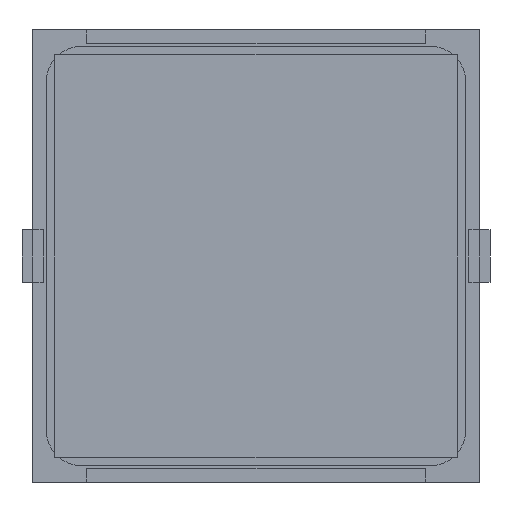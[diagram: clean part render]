
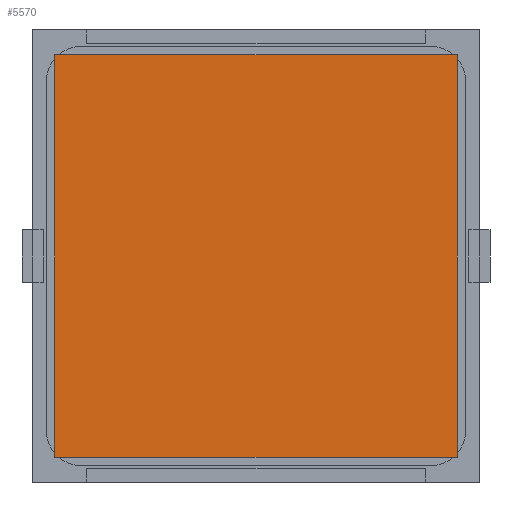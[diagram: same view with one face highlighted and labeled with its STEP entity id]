
A CAD part, front view. The second image highlights one B-rep face of the part: STEP entity #5570.
In plain terms, the highlighted planar face has unit normal (0, -1, 0).
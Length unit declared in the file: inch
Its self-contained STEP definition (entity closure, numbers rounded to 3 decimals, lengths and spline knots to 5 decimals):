
#278 = VERTEX_POINT ( 'NONE', #4550 ) ;
#339 = ORIENTED_EDGE ( 'NONE', *, *, #2511, .F. ) ;
#403 = VERTEX_POINT ( 'NONE', #2069 ) ;
#1420 = VERTEX_POINT ( 'NONE', #8511 ) ;
#1651 = LINE ( 'NONE', #7131, #11911 ) ;
#1752 = LINE ( 'NONE', #5517, #2330 ) ;
#2069 = CARTESIAN_POINT ( 'NONE',  ( 0.74803, -0.005, -0.74803 ) ) ;
#2330 = VECTOR ( 'NONE', #3705, 39.37008 ) ;
#2511 = EDGE_CURVE ( 'NONE', #403, #3999, #1651, .T. ) ;
#2534 = EDGE_CURVE ( 'NONE', #1420, #278, #8957, .T. ) ;
#2636 = DIRECTION ( 'NONE',  ( 0., 0., 1. ) ) ;
#2802 = AXIS2_PLACEMENT_3D ( 'NONE', #3537, #6300, #7248 ) ;
#3537 = CARTESIAN_POINT ( 'NONE',  ( -0.74803, -0.005, 0.74803 ) ) ;
#3618 = LINE ( 'NONE', #10943, #4986 ) ;
#3705 = DIRECTION ( 'NONE',  ( 0., 0., -1. ) ) ;
#3999 = VERTEX_POINT ( 'NONE', #7093 ) ;
#4359 = EDGE_CURVE ( 'NONE', #3999, #1420, #3618, .T. ) ;
#4547 = DIRECTION ( 'NONE',  ( 1., 0., 0. ) ) ;
#4550 = CARTESIAN_POINT ( 'NONE',  ( 0.74803, -0.005, 0.74803 ) ) ;
#4986 = VECTOR ( 'NONE', #2636, 39.37008 ) ;
#5517 = CARTESIAN_POINT ( 'NONE',  ( 0.74803, -0.005, -0.74803 ) ) ;
#5570 = ADVANCED_FACE ( 'NONE', ( #11035 ), #8078, .F. ) ;
#5662 = VECTOR ( 'NONE', #4547, 39.37008 ) ;
#5753 = ORIENTED_EDGE ( 'NONE', *, *, #9159, .F. ) ;
#6300 = DIRECTION ( 'NONE',  ( 0., 1., 0. ) ) ;
#7093 = CARTESIAN_POINT ( 'NONE',  ( -0.74803, -0.005, -0.74803 ) ) ;
#7131 = CARTESIAN_POINT ( 'NONE',  ( -0.74803, -0.005, -0.74803 ) ) ;
#7248 = DIRECTION ( 'NONE',  ( 0., 0., 1. ) ) ;
#7630 = ORIENTED_EDGE ( 'NONE', *, *, #2534, .F. ) ;
#8078 = PLANE ( 'NONE',  #2802 ) ;
#8511 = CARTESIAN_POINT ( 'NONE',  ( -0.74803, -0.005, 0.74803 ) ) ;
#8895 = DIRECTION ( 'NONE',  ( -1., 0., 0. ) ) ;
#8957 = LINE ( 'NONE', #11000, #5662 ) ;
#9159 = EDGE_CURVE ( 'NONE', #278, #403, #1752, .T. ) ;
#9499 = EDGE_LOOP ( 'NONE', ( #10031, #339, #5753, #7630 ) ) ;
#10031 = ORIENTED_EDGE ( 'NONE', *, *, #4359, .F. ) ;
#10943 = CARTESIAN_POINT ( 'NONE',  ( -0.74803, -0.005, -0.74803 ) ) ;
#11000 = CARTESIAN_POINT ( 'NONE',  ( -0.74803, -0.005, 0.74803 ) ) ;
#11035 = FACE_OUTER_BOUND ( 'NONE', #9499, .T. ) ;
#11911 = VECTOR ( 'NONE', #8895, 39.37008 ) ;
